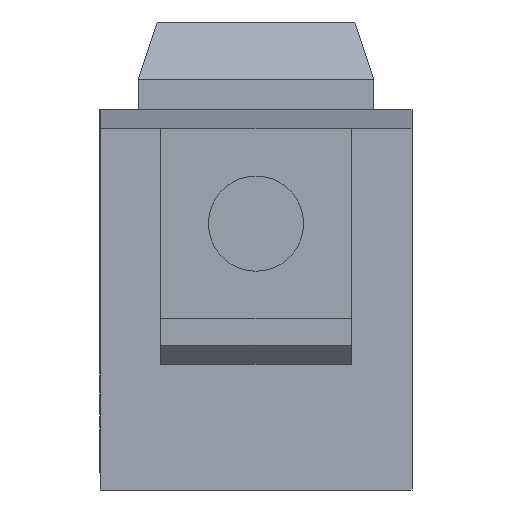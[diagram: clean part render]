
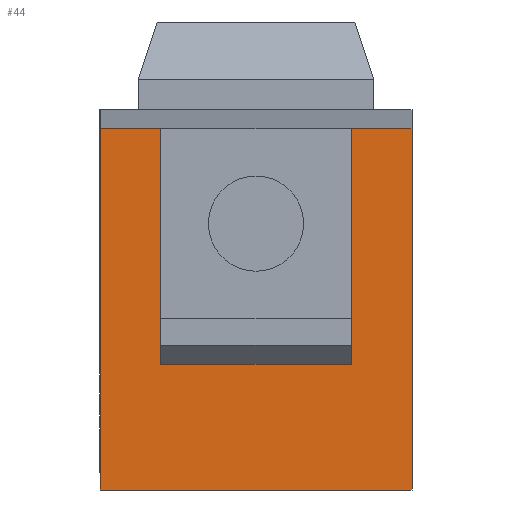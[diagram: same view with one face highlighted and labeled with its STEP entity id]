
A CAD part, front view. The second image highlights one B-rep face of the part: STEP entity #44.
In plain terms, the highlighted planar face has unit normal (0, -1, 0).
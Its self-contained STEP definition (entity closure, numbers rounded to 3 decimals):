
#44 = ADVANCED_FACE ( 'NONE', ( #742 ), #565, .T. ) ;
#73 = DIRECTION ( 'NONE',  ( 0., 0., 1. ) ) ;
#74 = CARTESIAN_POINT ( 'NONE',  ( 4.1, -8.5, -12.3 ) ) ;
#123 = EDGE_CURVE ( 'NONE', #496, #503, #889, .T. ) ;
#124 = EDGE_CURVE ( 'NONE', #503, #427, #842, .T. ) ;
#148 = EDGE_CURVE ( 'NONE', #482, #488, #860, .T. ) ;
#149 = EDGE_CURVE ( 'NONE', #525, #502, #828, .T. ) ;
#158 = EDGE_CURVE ( 'NONE', #489, #525, #780, .T. ) ;
#169 = EDGE_CURVE ( 'NONE', #427, #489, #1296, .T. ) ;
#204 = EDGE_CURVE ( 'NONE', #488, #502, #1237, .T. ) ;
#264 = ORIENTED_EDGE ( 'NONE', *, *, #123, .F. ) ;
#275 = ORIENTED_EDGE ( 'NONE', *, *, #169, .F. ) ;
#282 = ORIENTED_EDGE ( 'NONE', *, *, #1441, .F. ) ;
#287 = ORIENTED_EDGE ( 'NONE', *, *, #158, .F. ) ;
#358 = ORIENTED_EDGE ( 'NONE', *, *, #149, .F. ) ;
#379 = ORIENTED_EDGE ( 'NONE', *, *, #124, .F. ) ;
#427 = VERTEX_POINT ( 'NONE', #1575 ) ;
#448 = VECTOR ( 'NONE', #992, 1000. ) ;
#461 = LINE ( 'NONE', #991, #448 ) ;
#482 = VERTEX_POINT ( 'NONE', #908 ) ;
#488 = VERTEX_POINT ( 'NONE', #914 ) ;
#489 = VERTEX_POINT ( 'NONE', #915 ) ;
#496 = VERTEX_POINT ( 'NONE', #922 ) ;
#502 = VERTEX_POINT ( 'NONE', #928 ) ;
#503 = VERTEX_POINT ( 'NONE', #929 ) ;
#525 = VERTEX_POINT ( 'NONE', #947 ) ;
#557 = DIRECTION ( 'NONE',  ( 0., -1., 0. ) ) ;
#560 = CARTESIAN_POINT ( 'NONE',  ( -4.1, -8.5, -12.3 ) ) ;
#565 = PLANE ( 'NONE',  #1363 ) ;
#614 = DIRECTION ( 'NONE',  ( 0., 0., -1. ) ) ;
#663 = VECTOR ( 'NONE', #1585, 1000. ) ;
#712 = VECTOR ( 'NONE', #1614, 1000. ) ;
#742 = FACE_OUTER_BOUND ( 'NONE', #1180, .T. ) ;
#751 = VECTOR ( 'NONE', #1498, 1000. ) ;
#780 = LINE ( 'NONE', #1611, #1330 ) ;
#828 = LINE ( 'NONE', #1559, #663 ) ;
#842 = LINE ( 'NONE', #1494, #884 ) ;
#860 = LINE ( 'NONE', #1618, #751 ) ;
#884 = VECTOR ( 'NONE', #1492, 1000. ) ;
#889 = LINE ( 'NONE', #1607, #712 ) ;
#908 = CARTESIAN_POINT ( 'NONE',  ( -4.1, -8.5, -12.3 ) ) ;
#914 = CARTESIAN_POINT ( 'NONE',  ( 4.1, -8.5, -12.3 ) ) ;
#915 = CARTESIAN_POINT ( 'NONE',  ( 2.5, -8.5, -9. ) ) ;
#922 = CARTESIAN_POINT ( 'NONE',  ( -4.1, -8.5, -2.8 ) ) ;
#928 = CARTESIAN_POINT ( 'NONE',  ( 4.1, -8.5, -2.8 ) ) ;
#929 = CARTESIAN_POINT ( 'NONE',  ( -2.5, -8.5, -2.8 ) ) ;
#947 = CARTESIAN_POINT ( 'NONE',  ( 2.5, -8.5, -2.8 ) ) ;
#991 = CARTESIAN_POINT ( 'NONE',  ( -4.1, -8.5, -12.3 ) ) ;
#992 = DIRECTION ( 'NONE',  ( 0., 0., 1. ) ) ;
#1074 = ORIENTED_EDGE ( 'NONE', *, *, #204, .T. ) ;
#1180 = EDGE_LOOP ( 'NONE', ( #287, #275, #379, #264, #282, #1199, #1074, #358 ) ) ;
#1199 = ORIENTED_EDGE ( 'NONE', *, *, #148, .T. ) ;
#1226 = VECTOR ( 'NONE', #73, 1000. ) ;
#1237 = LINE ( 'NONE', #74, #1226 ) ;
#1281 = VECTOR ( 'NONE', #1629, 1000. ) ;
#1296 = LINE ( 'NONE', #1593, #1281 ) ;
#1330 = VECTOR ( 'NONE', #1623, 1000. ) ;
#1363 = AXIS2_PLACEMENT_3D ( 'NONE', #560, #557, #614 ) ;
#1441 = EDGE_CURVE ( 'NONE', #482, #496, #461, .T. ) ;
#1492 = DIRECTION ( 'NONE',  ( 0., 0., -1. ) ) ;
#1494 = CARTESIAN_POINT ( 'NONE',  ( -2.5, -8.5, -2.8 ) ) ;
#1498 = DIRECTION ( 'NONE',  ( 1., 0., 0. ) ) ;
#1559 = CARTESIAN_POINT ( 'NONE',  ( -4.1, -8.5, -2.8 ) ) ;
#1575 = CARTESIAN_POINT ( 'NONE',  ( -2.5, -8.5, -9. ) ) ;
#1585 = DIRECTION ( 'NONE',  ( 1., 0., 0. ) ) ;
#1593 = CARTESIAN_POINT ( 'NONE',  ( 2.5, -8.5, -9. ) ) ;
#1607 = CARTESIAN_POINT ( 'NONE',  ( -4.1, -8.5, -2.8 ) ) ;
#1611 = CARTESIAN_POINT ( 'NONE',  ( 2.5, -8.5, -2.8 ) ) ;
#1614 = DIRECTION ( 'NONE',  ( 1., 0., 0. ) ) ;
#1618 = CARTESIAN_POINT ( 'NONE',  ( -4.1, -8.5, -12.3 ) ) ;
#1623 = DIRECTION ( 'NONE',  ( 0., 0., 1. ) ) ;
#1629 = DIRECTION ( 'NONE',  ( 1., 0., 0. ) ) ;
